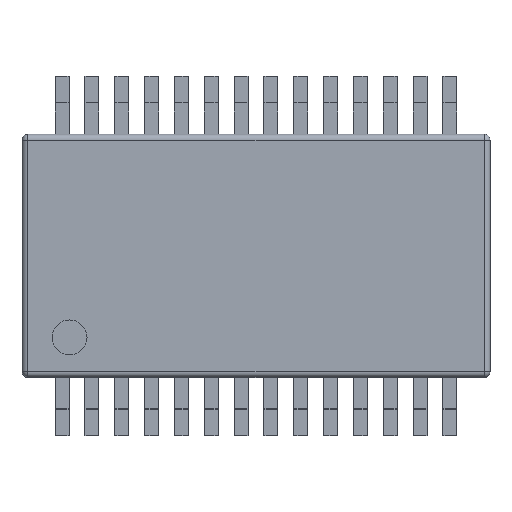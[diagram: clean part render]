
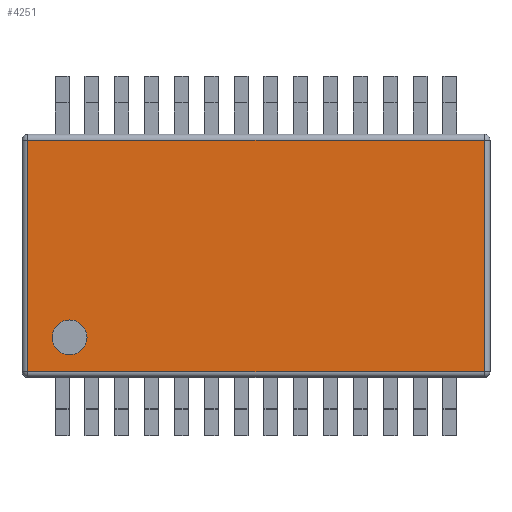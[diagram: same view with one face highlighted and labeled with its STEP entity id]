
A CAD part, top view. The second image highlights one B-rep face of the part: STEP entity #4251.
In plain terms, the highlighted planar face has unit normal (0, 0, 1).
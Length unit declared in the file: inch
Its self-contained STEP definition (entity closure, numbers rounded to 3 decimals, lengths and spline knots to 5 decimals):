
#329=CARTESIAN_POINT('',(-0.16,-0.07,0.07874));
#330=DIRECTION('',(0.,0.,1.));
#331=DIRECTION('',(1.,0.,0.));
#332=AXIS2_PLACEMENT_3D('',#329,#330,#331);
#334=CARTESIAN_POINT('',(-0.16,-0.07,0.07874));
#335=DIRECTION('',(0.,0.,1.));
#336=DIRECTION('',(-1.,0.,0.));
#337=AXIS2_PLACEMENT_3D('',#334,#335,#336);
#339=DIRECTION('',(0.,1.,0.));
#340=VECTOR('',#339,0.19866);
#341=CARTESIAN_POINT('',(0.19579,-0.09933,0.07874));
#342=LINE('',#341,#340);
#343=DIRECTION('',(1.,0.,0.));
#344=VECTOR('',#343,0.39157);
#345=CARTESIAN_POINT('',(-0.19579,-0.09933,0.07874));
#346=LINE('',#345,#344);
#347=DIRECTION('',(0.,-1.,0.));
#348=VECTOR('',#347,0.19866);
#349=CARTESIAN_POINT('',(-0.19579,0.09933,0.07874));
#350=LINE('',#349,#348);
#351=DIRECTION('',(-1.,0.,0.));
#352=VECTOR('',#351,0.39157);
#353=CARTESIAN_POINT('',(0.19579,0.09933,0.07874));
#354=LINE('',#353,#352);
#2978=CARTESIAN_POINT('',(-0.145,-0.07,0.07874));
#2979=CARTESIAN_POINT('',(-0.175,-0.07,0.07874));
#2980=VERTEX_POINT('',#2978);
#2981=VERTEX_POINT('',#2979);
#2986=CARTESIAN_POINT('',(0.19579,-0.09933,0.07874));
#2987=CARTESIAN_POINT('',(0.19579,0.09933,0.07874));
#2988=VERTEX_POINT('',#2986);
#2989=VERTEX_POINT('',#2987);
#3006=CARTESIAN_POINT('',(-0.19579,-0.09933,0.07874));
#3007=VERTEX_POINT('',#3006);
#3008=CARTESIAN_POINT('',(-0.19579,0.09933,0.07874));
#3009=VERTEX_POINT('',#3008);
#4231=CARTESIAN_POINT('',(0.,0.,0.07874));
#4232=DIRECTION('',(0.,0.,1.));
#4233=DIRECTION('',(1.,0.,0.));
#4234=AXIS2_PLACEMENT_3D('',#4231,#4232,#4233);
#4235=PLANE('',#4234);
#4237=ORIENTED_EDGE('',*,*,#4236,.F.);
#4239=ORIENTED_EDGE('',*,*,#4238,.F.);
#4240=ORIENTED_EDGE('',*,*,#4214,.F.);
#4242=ORIENTED_EDGE('',*,*,#4241,.F.);
#4243=EDGE_LOOP('',(#4237,#4239,#4240,#4242));
#4244=FACE_OUTER_BOUND('',#4243,.F.);
#4246=ORIENTED_EDGE('',*,*,#4245,.T.);
#4248=ORIENTED_EDGE('',*,*,#4247,.T.);
#4249=EDGE_LOOP('',(#4246,#4248));
#4250=FACE_BOUND('',#4249,.F.);
#4251=ADVANCED_FACE('',(#4244,#4250),#4235,.T.);
#333=CIRCLE('',#332,0.015);
#338=CIRCLE('',#337,0.015);
#4214=EDGE_CURVE('',#3009,#3007,#350,.T.);
#4236=EDGE_CURVE('',#2988,#2989,#342,.T.);
#4238=EDGE_CURVE('',#3007,#2988,#346,.T.);
#4241=EDGE_CURVE('',#2989,#3009,#354,.T.);
#4245=EDGE_CURVE('',#2980,#2981,#333,.T.);
#4247=EDGE_CURVE('',#2981,#2980,#338,.T.);
